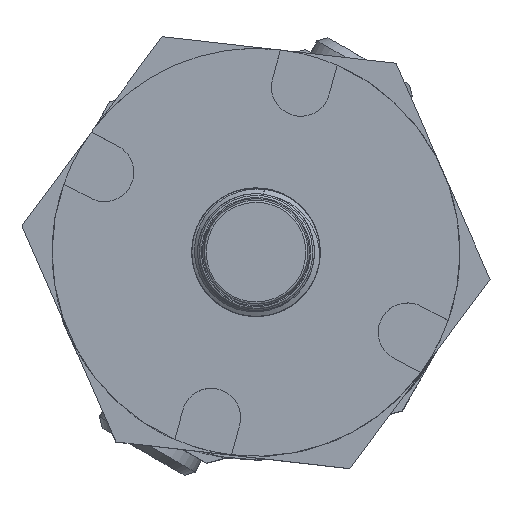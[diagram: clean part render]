
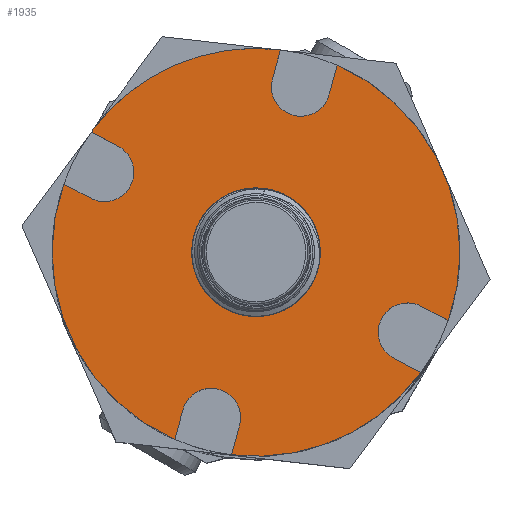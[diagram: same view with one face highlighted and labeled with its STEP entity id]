
A CAD part, top view. The second image highlights one B-rep face of the part: STEP entity #1935.
In plain terms, the highlighted planar face has unit normal (0, 0, 1).
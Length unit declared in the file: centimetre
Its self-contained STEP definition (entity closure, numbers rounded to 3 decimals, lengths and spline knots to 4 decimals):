
#49=FACE_BOUND('',#346,.T.);
#108=PLANE('',#2156);
#220=FACE_OUTER_BOUND('',#345,.T.);
#345=EDGE_LOOP('',(#1660,#1661,#1662,#1663,#1664,#1665,#1666,#1667,#1668,
#1669,#1670,#1671,#1672,#1673,#1674,#1675,#1676));
#346=EDGE_LOOP('',(#1677));
#427=CIRCLE('',#2133,0.53);
#440=CIRCLE('',#2157,0.275);
#441=CIRCLE('',#2158,1.905);
#442=CIRCLE('',#2159,0.275);
#443=CIRCLE('',#2160,1.905);
#444=CIRCLE('',#2161,1.905);
#445=CIRCLE('',#2162,0.275);
#446=CIRCLE('',#2163,1.905);
#447=CIRCLE('',#2164,0.275);
#448=CIRCLE('',#2165,1.905);
#598=LINE('',#8764,#746);
#599=LINE('',#8768,#747);
#600=LINE('',#8772,#748);
#601=LINE('',#8776,#749);
#602=LINE('',#8782,#750);
#603=LINE('',#8786,#751);
#604=LINE('',#8790,#752);
#605=LINE('',#8794,#753);
#746=VECTOR('',#2618,1.);
#747=VECTOR('',#2621,1.);
#748=VECTOR('',#2624,1.);
#749=VECTOR('',#2627,1.);
#750=VECTOR('',#2632,1.);
#751=VECTOR('',#2635,1.);
#752=VECTOR('',#2638,1.);
#753=VECTOR('',#2641,1.);
#902=VERTEX_POINT('',#3896);
#928=VERTEX_POINT('',#8762);
#929=VERTEX_POINT('',#8763);
#930=VERTEX_POINT('',#8765);
#931=VERTEX_POINT('',#8767);
#932=VERTEX_POINT('',#8769);
#933=VERTEX_POINT('',#8771);
#934=VERTEX_POINT('',#8773);
#935=VERTEX_POINT('',#8775);
#936=VERTEX_POINT('',#8777);
#937=VERTEX_POINT('',#8779);
#938=VERTEX_POINT('',#8781);
#939=VERTEX_POINT('',#8783);
#940=VERTEX_POINT('',#8785);
#941=VERTEX_POINT('',#8787);
#942=VERTEX_POINT('',#8789);
#943=VERTEX_POINT('',#8791);
#944=VERTEX_POINT('',#8793);
#1137=EDGE_CURVE('',#902,#902,#427,.T.);
#1182=EDGE_CURVE('',#928,#929,#598,.T.);
#1183=EDGE_CURVE('',#929,#930,#440,.T.);
#1184=EDGE_CURVE('',#930,#931,#599,.T.);
#1185=EDGE_CURVE('',#931,#932,#441,.T.);
#1186=EDGE_CURVE('',#932,#933,#600,.T.);
#1187=EDGE_CURVE('',#933,#934,#442,.T.);
#1188=EDGE_CURVE('',#934,#935,#601,.T.);
#1189=EDGE_CURVE('',#935,#936,#443,.T.);
#1190=EDGE_CURVE('',#936,#937,#444,.T.);
#1191=EDGE_CURVE('',#937,#938,#602,.T.);
#1192=EDGE_CURVE('',#938,#939,#445,.T.);
#1193=EDGE_CURVE('',#939,#940,#603,.T.);
#1194=EDGE_CURVE('',#940,#941,#446,.T.);
#1195=EDGE_CURVE('',#941,#942,#604,.T.);
#1196=EDGE_CURVE('',#942,#943,#447,.T.);
#1197=EDGE_CURVE('',#943,#944,#605,.T.);
#1198=EDGE_CURVE('',#944,#928,#448,.T.);
#1660=ORIENTED_EDGE('',*,*,#1182,.T.);
#1661=ORIENTED_EDGE('',*,*,#1183,.T.);
#1662=ORIENTED_EDGE('',*,*,#1184,.T.);
#1663=ORIENTED_EDGE('',*,*,#1185,.T.);
#1664=ORIENTED_EDGE('',*,*,#1186,.T.);
#1665=ORIENTED_EDGE('',*,*,#1187,.T.);
#1666=ORIENTED_EDGE('',*,*,#1188,.T.);
#1667=ORIENTED_EDGE('',*,*,#1189,.T.);
#1668=ORIENTED_EDGE('',*,*,#1190,.T.);
#1669=ORIENTED_EDGE('',*,*,#1191,.T.);
#1670=ORIENTED_EDGE('',*,*,#1192,.T.);
#1671=ORIENTED_EDGE('',*,*,#1193,.T.);
#1672=ORIENTED_EDGE('',*,*,#1194,.T.);
#1673=ORIENTED_EDGE('',*,*,#1195,.T.);
#1674=ORIENTED_EDGE('',*,*,#1196,.T.);
#1675=ORIENTED_EDGE('',*,*,#1197,.T.);
#1676=ORIENTED_EDGE('',*,*,#1198,.T.);
#1677=ORIENTED_EDGE('',*,*,#1137,.T.);
#1935=ADVANCED_FACE('',(#220,#49),#108,.F.);
#2133=AXIS2_PLACEMENT_3D('',#3897,#2558,#2559);
#2156=AXIS2_PLACEMENT_3D('',#8761,#2616,#2617);
#2157=AXIS2_PLACEMENT_3D('',#8766,#2619,#2620);
#2158=AXIS2_PLACEMENT_3D('',#8770,#2622,#2623);
#2159=AXIS2_PLACEMENT_3D('',#8774,#2625,#2626);
#2160=AXIS2_PLACEMENT_3D('',#8778,#2628,#2629);
#2161=AXIS2_PLACEMENT_3D('',#8780,#2630,#2631);
#2162=AXIS2_PLACEMENT_3D('',#8784,#2633,#2634);
#2163=AXIS2_PLACEMENT_3D('',#8788,#2636,#2637);
#2164=AXIS2_PLACEMENT_3D('',#8792,#2639,#2640);
#2165=AXIS2_PLACEMENT_3D('',#8795,#2642,#2643);
#2558=DIRECTION('center_axis',(0.,0.,
-1.));
#2559=DIRECTION('ref_axis',(0.131,0.991,0.));
#2616=DIRECTION('center_axis',(0.,0.,
-1.));
#2617=DIRECTION('ref_axis',(0.917,0.399,0.));
#2618=DIRECTION('',(-0.884,0.467,0.));
#2619=DIRECTION('center_axis',(0.,0.,
-1.));
#2620=DIRECTION('ref_axis',(0.399,-0.917,0.));
#2621=DIRECTION('',(0.884,-0.467,0.));
#2622=DIRECTION('center_axis',(0.,0.,
1.));
#2623=DIRECTION('ref_axis',(0.399,-0.917,0.));
#2624=DIRECTION('',(-0.262,-0.965,0.));
#2625=DIRECTION('center_axis',(0.,0.,
-1.));
#2626=DIRECTION('ref_axis',(0.399,-0.917,0.));
#2627=DIRECTION('',(0.262,0.965,0.));
#2628=DIRECTION('center_axis',(0.,0.,
1.));
#2629=DIRECTION('ref_axis',(0.399,-0.917,0.));
#2630=DIRECTION('center_axis',(0.,0.,
1.));
#2631=DIRECTION('ref_axis',(0.399,-0.917,0.));
#2632=DIRECTION('',(0.884,-0.467,0.));
#2633=DIRECTION('center_axis',(0.,0.,
-1.));
#2634=DIRECTION('ref_axis',(0.399,-0.917,0.));
#2635=DIRECTION('',(-0.884,0.467,0.));
#2636=DIRECTION('center_axis',(0.,0.,
1.));
#2637=DIRECTION('ref_axis',(0.399,-0.917,0.));
#2638=DIRECTION('',(0.262,0.965,0.));
#2639=DIRECTION('center_axis',(0.,0.,
-1.));
#2640=DIRECTION('ref_axis',(0.399,-0.917,0.));
#2641=DIRECTION('',(-0.262,-0.965,0.));
#2642=DIRECTION('center_axis',(0.,0.,
1.));
#2643=DIRECTION('ref_axis',(0.399,-0.917,0.));
#3896=CARTESIAN_POINT('',(-0.0697,-0.5254,5.1308));
#3897=CARTESIAN_POINT('Origin',(0.,0.,
5.1308));
#8761=CARTESIAN_POINT('Origin',(0.,0.,
5.1308));
#8762=CARTESIAN_POINT('',(1.5387,-1.1231,5.1308));
#8763=CARTESIAN_POINT('',(1.3025,-0.9984,5.1308));
#8764=CARTESIAN_POINT('',(0.5796,-0.6165,5.1308));
#8765=CARTESIAN_POINT('',(1.5589,-0.513,5.1308));
#8766=CARTESIAN_POINT('Origin',(1.4155,-0.7476,5.1308));
#8767=CARTESIAN_POINT('',(1.7951,-0.6377,5.1308));
#8768=CARTESIAN_POINT('',(0.9704,-0.2022,5.1308));
#8769=CARTESIAN_POINT('',(0.758,1.7477,5.1308));
#8770=CARTESIAN_POINT('Origin',(0.,0.,
5.1308));
#8771=CARTESIAN_POINT('',(0.6881,1.4899,5.1308));
#8772=CARTESIAN_POINT('',(0.4742,0.7007,5.1308));
#8773=CARTESIAN_POINT('',(0.1583,1.6335,5.1308));
#8774=CARTESIAN_POINT('Origin',(0.4187,1.5451,5.1308));
#8775=CARTESIAN_POINT('',(0.2281,1.8913,5.1308));
#8776=CARTESIAN_POINT('',(-0.0158,0.9911,5.1308));
#8777=CARTESIAN_POINT('',(-0.7596,1.747,5.1308));
#8778=CARTESIAN_POINT('Origin',(0.,0.,
5.1308));
#8779=CARTESIAN_POINT('',(-1.5387,1.1231,5.1308));
#8780=CARTESIAN_POINT('Origin',(0.,0.,
5.1308));
#8781=CARTESIAN_POINT('',(-1.3025,0.9984,5.1308));
#8782=CARTESIAN_POINT('',(-0.7141,0.6875,5.1308));
#8783=CARTESIAN_POINT('',(-1.5589,0.513,5.1308));
#8784=CARTESIAN_POINT('Origin',(-1.4155,0.7476,5.1308));
#8785=CARTESIAN_POINT('',(-1.7951,0.6377,5.1308));
#8786=CARTESIAN_POINT('',(-0.8359,0.1311,5.1308));
#8787=CARTESIAN_POINT('',(-0.758,-1.7477,5.1308));
#8788=CARTESIAN_POINT('Origin',(0.,0.,
5.1308));
#8789=CARTESIAN_POINT('',(-0.6881,-1.4899,5.1308));
#8790=CARTESIAN_POINT('',(-0.514,-0.8476,5.1308));
#8791=CARTESIAN_POINT('',(-0.1583,-1.6335,5.1308));
#8792=CARTESIAN_POINT('Origin',(-0.4187,-1.5451,5.1308));
#8793=CARTESIAN_POINT('',(-0.2281,-1.8913,5.1308));
#8794=CARTESIAN_POINT('',(0.0556,-0.8443,5.1308));
#8795=CARTESIAN_POINT('Origin',(0.,0.,
5.1308));
